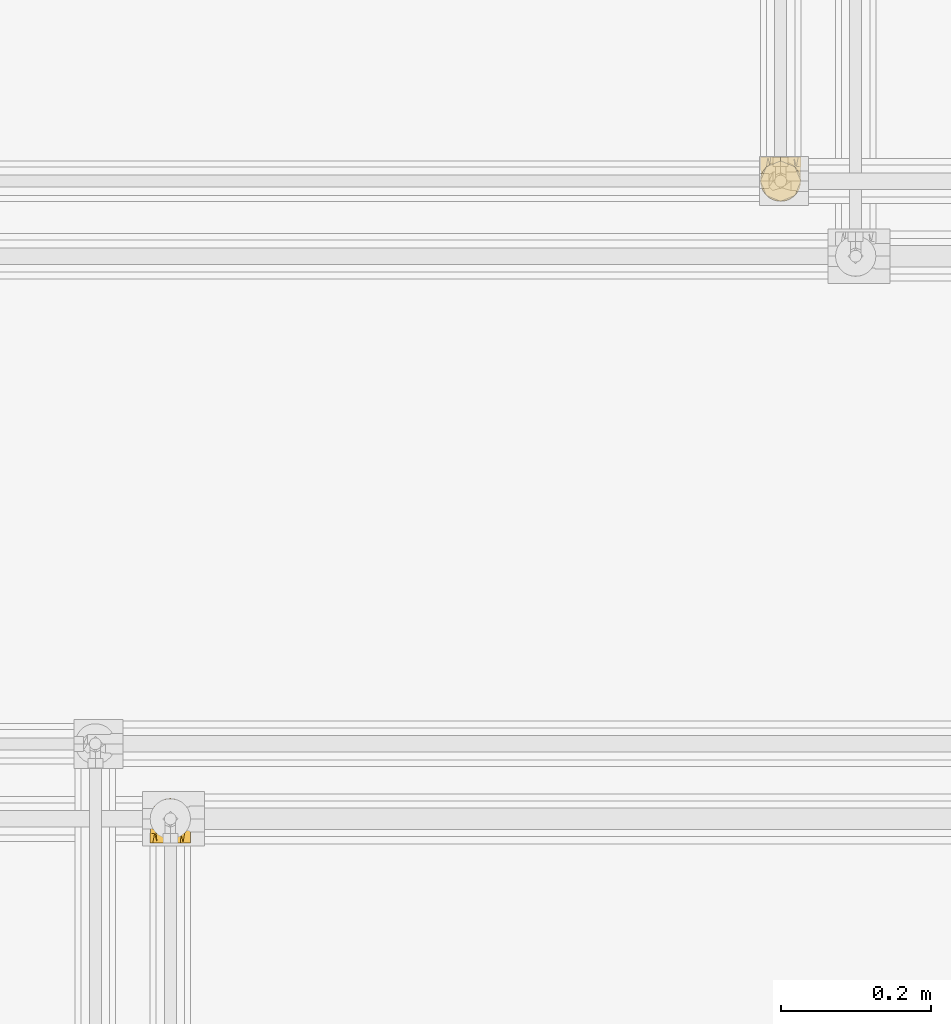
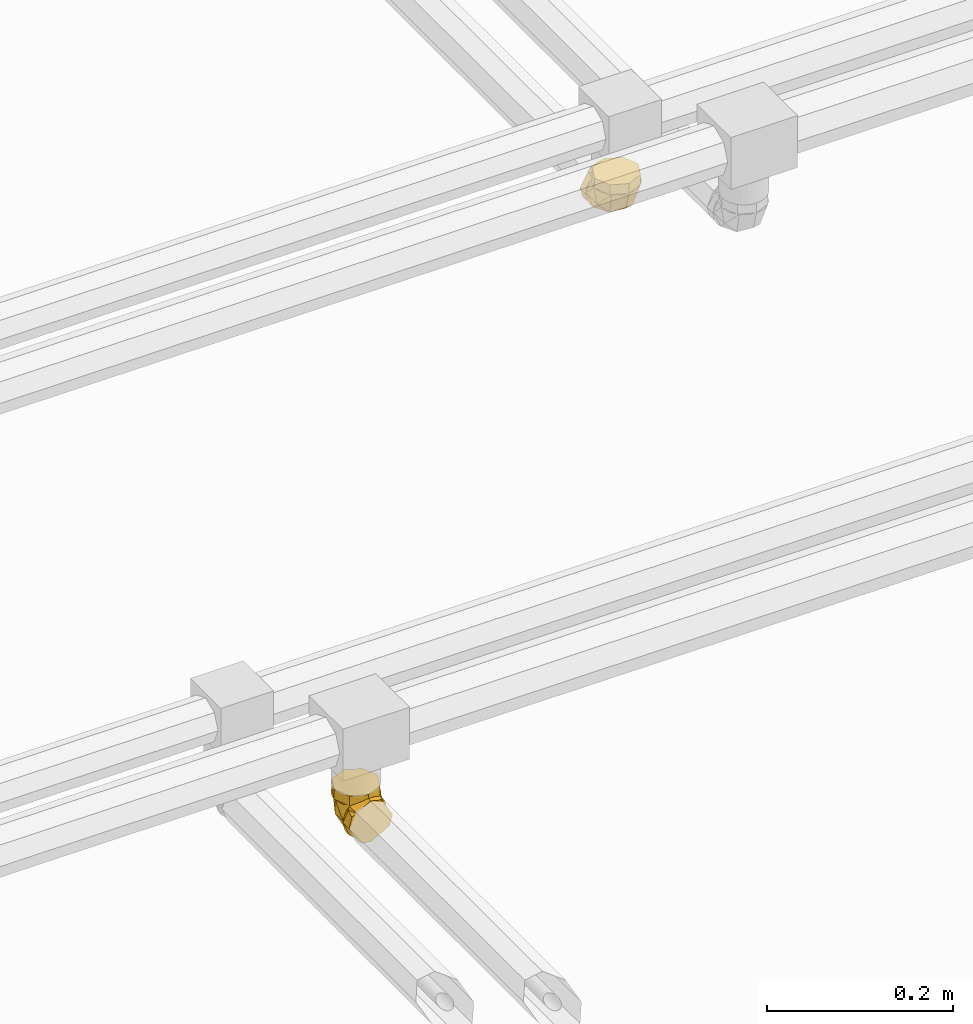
# One storey, part 302 of 652: 2 coverings.
"""IFC2X3 building model written with IfcOpenShell, lengths in millimetres."""

from ifc_helpers import new_model, entity, si_unit, converted_unit, direction, frame, origin, place, context, subcontext, project, spatial, face_set, surface_model, material, type_object, element, save


model = new_model("IFC2X3")

# Units and contexts
model_context = context("Model", 3, precision=0.01, world=frame((0.0, 0.0, 308426.39999999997)), true_north=direction((6.123233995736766e-17, 1.0)))
plan_context = context("Plan", 3, precision=0.01, world=frame((0.0, 0.0, 308426.39999999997)), true_north=direction((6.123233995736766e-17, 1.0)))
body_context = subcontext(model_context, "Body", "Model", "MODEL_VIEW")
ifc_project = project(units=[si_unit("LENGTHUNIT", "METRE", prefix="MILLI"), si_unit("AREAUNIT", "SQUARE_METRE"), si_unit("VOLUMEUNIT", "CUBIC_METRE"), converted_unit("PLANEANGLEUNIT", "DEGREE", entity("IfcPlaneAngleMeasure", 0.017453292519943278), si_unit("PLANEANGLEUNIT", "RADIAN"), dimensions=[0, 0, 0, 0, 0, 0, 0])], contexts=[model_context, plan_context])

# Site, building, storey
site_placement = place(None, origin())
site = spatial("IfcSite", under=ifc_project, at=site_placement, Name="Default", CompositionType="ELEMENT")
building_placement = place(site_placement, origin())
building = spatial("IfcBuilding", under=site, at=building_placement, CompositionType="ELEMENT")
storey_placement = place(building_placement, frame((0.0, 0.0, 1730.6999999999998)))
storey = spatial("IfcBuildingStorey", under=building, at=storey_placement, Name="EG_Produktion_FFB", CompositionType="ELEMENT", Elevation=1730.6999999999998)

# Coverings
ifc_material = material(Name="Dämmung - Armaflex-Schlauch")
covering_type = type_object("IfcCoveringType", Name="Rohrdämmung außen:Armaflex-Schlauch", PredefinedType="INSULATION")
covering_1_placement = place(storey_placement, frame((40971.46722776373, 41596.46567746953, 3731.983750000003)))
element("IfcCovering", 1, at=covering_1_placement, inside=storey, type_object=covering_type, material=ifc_material, Name="Rohrdämmung außen:Armaflex-Schlauch", ObjectType="Rohrdämmung außen:Armaflex-Schlauch", PredefinedType="INSULATION", context=body_context, shape_type="SurfaceModel", body=[
    surface_model("IfcFaceBasedSurfaceModel", [(9.65642195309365, 47.750272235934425, -12.766250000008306), (51.38658262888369, 42.79223424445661, -12.766250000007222), (54.0915642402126, 37.040242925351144, -12.766250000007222), (55.37345654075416, 30.81456370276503, -12.76625000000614), (55.16088498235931, 24.461836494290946, -12.766250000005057), (53.465685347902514, 18.3357751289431, -12.766250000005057), (50.38224474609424, 12.777472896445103, -12.766250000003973), (46.08224622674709, 8.096410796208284, -12.766250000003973), (40.8051096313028, 4.553225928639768, -12.766250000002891), (34.844660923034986, 2.345199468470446, -12.766250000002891), (28.532772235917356, 1.5952722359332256, -12.766250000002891), (22.220883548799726, 2.345199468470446, -12.766250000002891), (16.26043484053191, 4.553225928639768, -12.766250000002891), (10.983298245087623, 8.096410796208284, -12.766250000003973), (6.683299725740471, 12.777472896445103, -12.766250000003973), (3.599859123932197, 18.3357751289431, -12.766250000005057), (1.904659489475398, 24.461836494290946, -12.766250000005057), (1.6920879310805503, 30.81456370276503, -12.76625000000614), (2.973980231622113, 37.040242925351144, -12.766250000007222), (5.678961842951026, 42.79223424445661, -12.766250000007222), (47.409122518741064, 47.750272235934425, -12.766250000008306), (5.678961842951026, 47.750272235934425, -17.72428799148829), (2.973980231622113, 47.750272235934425, -23.47627931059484), (1.6920879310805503, 47.750272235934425, -29.701958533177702), (1.904659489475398, 47.750272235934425, -36.05468574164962), (3.599859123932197, 47.750272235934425, -42.18074710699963), (6.683299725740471, 47.750272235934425, -47.73904933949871), (10.983298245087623, 47.75027223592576, -52.420111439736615), (16.26043484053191, 47.75027223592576, -55.96329630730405), (22.220883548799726, 47.75027223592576, -58.17132276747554), (28.532772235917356, 47.75027223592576, -58.92125000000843), (34.844660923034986, 47.75027223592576, -58.17132276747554), (40.8051096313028, 47.75027223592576, -55.96329630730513), (46.08224622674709, 47.75027223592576, -52.420111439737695), (50.38224474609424, 47.750272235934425, -47.73904933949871), (53.465685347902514, 47.750272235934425, -42.18074710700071), (55.16088498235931, 47.750272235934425, -36.05468574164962), (55.37345654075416, 47.750272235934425, -29.701958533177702), (54.0915642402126, 47.750272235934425, -23.47627931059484), (51.38658262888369, 47.750272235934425, -17.724287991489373), (2.278292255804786, 39.0720056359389, -22.70882324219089), (28.532503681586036, 7.780892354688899, -35.843486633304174), (3.599141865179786, 26.9518152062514, -33.56571868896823), (6.338509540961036, 19.4545984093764, -12.766406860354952), (28.532503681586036, 29.48654421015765, -48.37644256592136), (14.286861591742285, 18.6732507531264, -43.18373626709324), (6.338509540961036, 47.7505456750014, -41.06119140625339), (42.778145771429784, 18.6732507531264, -43.18373626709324), (54.79136598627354, 39.0720056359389, -22.70882324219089), (53.46586549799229, 26.9518152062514, -33.56571868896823), (50.72649782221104, 47.7505456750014, -41.06119140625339), (50.72649782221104, 19.4545984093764, -12.766406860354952), (14.247005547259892, 7.512630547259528, 0.0), (19.008927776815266, 5.54017777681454, 0.0), (23.77085000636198, 3.567725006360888, 0.0), (28.532772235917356, 1.5952722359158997, 0.0), (33.29469446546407, 3.567725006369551, 0.0), (38.05661669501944, 5.54017777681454, 0.0), (42.81853892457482, 7.512630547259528, 0.0), (47.5804611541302, 9.485083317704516, 0.0), (49.552913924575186, 14.247005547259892, 0.0), (51.525366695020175, 19.008927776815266, 0.0), (53.49781946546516, 23.770850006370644, 0.0), (55.47027223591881, 28.532772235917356, 0.0), (53.497819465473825, 33.29469446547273, 0.0), (51.525366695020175, 38.05661669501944, 0.0), (49.552913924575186, 42.81853892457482, 0.0), (47.5804611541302, 47.5804611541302, 0.0), (42.81853892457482, 49.552913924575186, 0.0), (38.05661669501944, 51.525366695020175, 0.0), (33.29469446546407, 53.497819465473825, 0.0), (28.532772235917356, 55.47027223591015, 0.0), (23.770850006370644, 53.497819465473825, 0.0), (19.008927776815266, 51.525366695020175, 0.0), (14.247005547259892, 49.552913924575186, 0.0), (9.485083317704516, 47.5804611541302, 0.0), (7.512630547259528, 42.81853892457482, 0.0), (5.54017777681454, 38.05661669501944, 0.0), (3.567725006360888, 33.29469446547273, 0.0), (1.5952722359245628, 28.532772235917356, 0.0), (3.567725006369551, 23.770850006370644, 0.0), (5.54017777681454, 19.008927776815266, 0.0), (7.512630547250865, 14.247005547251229, 0.0), (9.485083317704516, 9.485083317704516, 0.0), (28.532772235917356, 1.5952722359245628, -12.766250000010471), (23.770850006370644, 3.567725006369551, -12.766250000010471), (19.008927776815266, 5.54017777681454, -12.766250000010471), (14.247005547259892, 7.512630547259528, -12.766250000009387), (9.485083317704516, 9.48508331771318, -12.766250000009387), (7.095738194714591, 15.253472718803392, -12.766250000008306), (4.706393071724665, 21.02186211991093, -12.766250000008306), (1.5952722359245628, 28.532772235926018, -12.76625000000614), (3.567725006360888, 33.29469446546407, -12.766250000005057), (5.54017777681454, 38.05661669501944, -12.766250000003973), (7.512630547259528, 42.81853892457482, -12.766250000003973), (9.485083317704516, 47.58046115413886, -12.766250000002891), (15.253472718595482, 49.96980627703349, -12.766250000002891), (21.021862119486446, 52.35915139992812, -12.766250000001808), (28.532772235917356, 55.47027223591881, -12.766250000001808), (33.29469446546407, 53.49781946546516, -12.766250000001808), (38.05661669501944, 51.525366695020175, -12.766250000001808), (42.81853892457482, 49.552913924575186, -12.766250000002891), (47.5804611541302, 47.58046115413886, -12.766250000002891), (49.96980627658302, 41.8120717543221, -12.766250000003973), (52.359151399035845, 36.043682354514, -12.766250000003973), (55.47027223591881, 28.532772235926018, -12.76625000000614), (53.49781946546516, 23.77085000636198, -12.766250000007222), (51.525366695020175, 19.008927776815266, -12.766250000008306), (49.552913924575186, 14.247005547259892, -12.766250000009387), (47.5804611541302, 9.48508331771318, -12.766250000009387), (41.81207177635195, 7.095738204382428, -12.766250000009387), (36.0436823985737, 4.706393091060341, -12.766250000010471), (28.532772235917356, 60.51652223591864, -58.92125000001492), (22.700632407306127, 60.516522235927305, -55.554062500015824), (16.868492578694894, 60.516522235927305, -52.18687500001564), (11.036352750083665, 60.51652223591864, -48.81968750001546), (5.204212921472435, 60.51652223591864, -45.45250000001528), (3.3997425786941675, 60.51652223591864, -38.718125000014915), (1.5952722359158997, 60.51652223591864, -31.98375000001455), (4.962459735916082, 60.516522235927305, -26.1516101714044), (8.329647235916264, 60.516522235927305, -20.31947034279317), (11.696834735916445, 60.51652223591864, -14.487330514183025), (15.064022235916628, 60.51652223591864, -8.655190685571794), (21.79839723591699, 60.51652223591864, -6.850720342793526), (28.532772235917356, 60.51652223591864, -5.046250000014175), (34.36491206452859, 60.516522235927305, -8.413437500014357), (40.197051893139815, 60.516522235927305, -11.78062500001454), (46.02919172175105, 60.51652223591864, -15.14781250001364), (51.86133155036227, 60.51652223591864, -18.515000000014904), (53.66580189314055, 60.51652223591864, -25.249375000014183), (55.47027223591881, 60.51652223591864, -31.98375000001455), (52.10308473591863, 60.516522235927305, -37.81588982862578), (48.73589723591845, 60.516522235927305, -43.648029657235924), (45.368709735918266, 60.51652223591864, -49.480169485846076), (42.00152223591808, 60.51652223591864, -55.3123093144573), (35.26714723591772, 60.51652223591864, -57.11677965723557), (28.532772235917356, 47.75027223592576, -58.92125000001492), (33.29469446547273, 47.75027223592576, -56.94879722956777), (38.05661669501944, 47.75027223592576, -54.9763444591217), (42.81853892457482, 47.75027223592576, -53.00389168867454), (47.5804611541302, 47.75027223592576, -51.03143891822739), (49.552913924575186, 47.75027223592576, -46.26951668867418), (51.525366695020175, 47.75027223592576, -41.507594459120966), (53.49781946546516, 47.75027223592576, -36.74567222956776), (55.47027223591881, 47.75027223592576, -31.98375000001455), (53.497819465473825, 47.75027223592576, -27.22182777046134), (51.525366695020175, 47.75027223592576, -22.459905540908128), (49.552913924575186, 47.75027223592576, -17.697983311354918), (47.5804611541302, 47.75027223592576, -12.936061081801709), (42.81853892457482, 47.75027223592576, -10.963608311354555), (38.05661669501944, 47.75027223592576, -8.991155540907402), (33.29469446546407, 47.75027223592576, -7.018702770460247), (28.532772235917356, 47.75027223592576, -5.046250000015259), (23.77085000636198, 47.75027223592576, -7.01870277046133), (19.008927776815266, 47.75027223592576, -8.991155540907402), (14.247005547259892, 47.75027223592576, -10.963608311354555), (9.485083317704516, 47.75027223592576, -12.936061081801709), (7.512630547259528, 47.75027223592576, -17.697983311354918), (5.54017777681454, 47.75027223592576, -22.459905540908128), (3.567725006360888, 47.75027223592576, -27.22182777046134), (1.5952722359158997, 47.75027223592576, -31.98375000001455), (3.567725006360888, 47.75027223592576, -36.74567222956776), (5.54017777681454, 47.75027223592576, -41.507594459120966), (7.512630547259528, 47.75027223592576, -46.26951668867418), (9.485083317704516, 47.75027223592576, -51.03143891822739), (14.247005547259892, 47.75027223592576, -53.00389168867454), (19.008927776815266, 47.75027223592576, -54.9763444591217), (23.77085000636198, 47.75027223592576, -56.948797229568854)], [face_set([[[0, 1, 2, 3, 4, 5, 6, 7, 8, 9, 10, 11, 12, 13, 14, 15, 16, 17, 18, 19]], [[20, 21, 22, 23, 24, 25, 26, 27, 28, 29, 30, 31, 32, 33, 34, 35, 36, 37, 38, 39]], [[0, 40, 17]], [[10, 13, 41]], [[23, 42, 40]], [[42, 13, 43]], [[23, 40, 0]], [[17, 40, 42]], [[44, 41, 45]], [[13, 45, 41]], [[27, 30, 44]], [[44, 45, 27]], [[42, 27, 45]], [[42, 23, 46, 27]], [[13, 42, 45]], [[43, 17, 42]], [[7, 10, 41]], [[33, 47, 44]], [[44, 30, 33]], [[48, 49, 37]], [[49, 33, 50, 37]], [[3, 49, 48]], [[44, 47, 41]], [[20, 48, 37]], [[47, 49, 7]], [[3, 48, 20]], [[41, 47, 7]], [[49, 3, 51]], [[33, 49, 47]], [[51, 7, 49]]]), face_set([[[52, 53, 54, 55, 56, 57, 58, 59, 60, 61, 62, 63, 64, 65, 66, 67, 68, 69, 70, 71, 72, 73, 74, 75, 76, 77, 78, 79, 80, 81, 82, 83]], [[84, 85, 86, 87, 88, 89, 90, 91, 92, 93, 94, 95, 96, 97, 98, 99, 100, 101, 102, 103, 104, 105, 106, 107, 108, 109, 110, 111]], [[111, 110, 109, 59, 58, 57, 56, 55, 84]], [[59, 109, 108, 107, 106, 105, 63, 62, 61, 60]], [[104, 103, 102, 67, 66, 65, 64, 63, 105]], [[67, 102, 101, 100, 99, 98, 71, 70, 69, 68]], [[97, 96, 95, 75, 74, 73, 72, 71, 98]], [[75, 95, 94, 93, 92, 91, 79, 78, 77, 76]], [[90, 89, 88, 83, 82, 81, 80, 79, 91]], [[83, 88, 87, 86, 85, 84, 55, 54, 53, 52]]]), face_set([[[112, 113, 114, 115, 116, 117, 118, 119, 120, 121, 122, 123, 124, 125, 126, 127, 128, 129, 130, 131, 132, 133, 134, 135]], [[136, 137, 138, 139, 140, 141, 142, 143, 144, 145, 146, 147, 148, 149, 150, 151, 152, 153, 154, 155, 156, 157, 158, 159, 160, 161, 162, 163, 164, 165, 166, 167]], [[155, 121, 156]], [[118, 159, 119]], [[159, 158, 119]], [[123, 154, 153]], [[153, 152, 124]], [[121, 155, 122]], [[120, 158, 157]], [[118, 160, 159]], [[158, 120, 119]], [[124, 123, 153]], [[157, 156, 121]], [[155, 154, 122]], [[123, 122, 154]], [[120, 157, 121]], [[163, 115, 164]], [[112, 167, 113]], [[167, 166, 113]], [[117, 162, 161]], [[161, 160, 118]], [[115, 163, 116]], [[114, 166, 165]], [[112, 136, 167]], [[166, 114, 113]], [[118, 117, 161]], [[165, 164, 115]], [[163, 162, 116]], [[117, 116, 162]], [[114, 165, 115]], [[139, 133, 140]], [[130, 143, 131]], [[143, 142, 131]], [[135, 138, 137]], [[137, 136, 112]], [[133, 139, 134]], [[132, 142, 141]], [[130, 144, 143]], [[142, 132, 131]], [[112, 135, 137]], [[141, 140, 133]], [[139, 138, 134]], [[135, 134, 138]], [[132, 141, 133]], [[147, 127, 148]], [[124, 151, 125]], [[151, 150, 125]], [[129, 146, 145]], [[145, 144, 130]], [[127, 147, 128]], [[126, 150, 149]], [[124, 152, 151]], [[150, 126, 125]], [[130, 129, 145]], [[149, 148, 127]], [[147, 146, 128]], [[129, 128, 146]], [[126, 149, 127]]])]),
])
covering_2_placement = place(storey_placement, frame((40158.027291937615, 40743.01624999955, 3671.467227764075)))
element("IfcCovering", 2, at=covering_2_placement, inside=storey, type_object=covering_type, material=ifc_material, Name="Rohrdämmung außen:Armaflex-Schlauch", ObjectType="Rohrdämmung außen:Armaflex-Schlauch", PredefinedType="INSULATION", context=body_context, shape_type="SurfaceModel", body=[
    surface_model("IfcFaceBasedSurfaceModel", [(47.409122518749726, 12.766249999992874, 47.750272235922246), (51.38658262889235, 17.724287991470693, 47.750272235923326), (54.09156424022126, 23.47627931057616, 47.750272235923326), (55.373456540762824, 29.70195853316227, 47.75027223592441), (55.160884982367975, 36.054685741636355, 47.75027223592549), (53.465685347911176, 42.1807471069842, 47.75027223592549), (50.382244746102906, 47.7390493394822, 47.75027223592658), (46.08224622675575, 52.420111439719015, 47.75027223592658), (40.80510963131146, 55.963296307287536, 47.75027223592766), (34.84466092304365, 58.17132276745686, 47.75027223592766), (28.532772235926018, 58.921249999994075, 47.75027223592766), (22.220883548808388, 58.17132276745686, 47.75027223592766), (16.260434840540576, 55.963296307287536, 47.75027223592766), (10.983298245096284, 52.420111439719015, 47.75027223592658), (6.6832997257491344, 47.7390493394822, 47.75027223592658), (3.5998591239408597, 42.1807471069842, 47.75027223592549), (1.904659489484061, 36.054685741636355, 47.75027223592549), (1.6920879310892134, 29.70195853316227, 47.75027223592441), (2.973980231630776, 23.47627931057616, 47.750272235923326), (5.678961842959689, 17.724287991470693, 47.750272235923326), (9.656421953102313, 12.766249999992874, 47.750272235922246), (5.678961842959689, 12.766249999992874, 42.79223424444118), (2.973980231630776, 12.766249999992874, 37.04024292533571), (1.6920879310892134, 12.766249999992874, 30.81456370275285), (1.904659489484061, 12.766249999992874, 24.46183649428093), (3.5998591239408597, 12.766249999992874, 18.335775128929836), (6.6832997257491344, 12.766249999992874, 12.777472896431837), (10.983298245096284, 12.766250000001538, 8.096410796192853), (16.260434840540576, 12.766250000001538, 4.5532259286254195), (22.220883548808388, 12.766250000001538, 2.3451994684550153), (28.532772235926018, 12.766250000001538, 1.5952722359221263), (34.84466092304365, 12.766250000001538, 2.3451994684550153), (40.80510963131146, 12.766250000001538, 4.553225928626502), (46.08224622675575, 12.766250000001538, 8.096410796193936), (50.382244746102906, 12.766249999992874, 12.777472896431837), (53.465685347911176, 12.766249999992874, 18.33577512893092), (55.160884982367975, 12.766249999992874, 24.46183649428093), (55.373456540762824, 12.766249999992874, 30.81456370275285), (54.09156424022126, 12.766249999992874, 37.04024292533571), (51.38658262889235, 12.766249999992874, 42.79223424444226), (54.78793023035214, 21.449020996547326, 37.807698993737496), (28.533718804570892, 52.73548339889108, 24.673035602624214), (53.46708062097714, 33.564560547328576, 26.950803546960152), (50.72771294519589, 41.06177734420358, 47.750115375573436), (28.533718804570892, 31.029831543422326, 12.140079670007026), (42.779360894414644, 41.843125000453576, 17.33278596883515), (50.72771294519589, 12.765830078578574, 19.455330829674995), (14.283425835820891, 41.843125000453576, 17.33278596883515), (2.27485649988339, 21.449020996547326, 37.807698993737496), (3.60035698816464, 33.564560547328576, 26.950803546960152), (6.33972466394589, 12.765830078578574, 19.455330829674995), (6.33972466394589, 41.06177734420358, 47.750115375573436), (42.818538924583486, 53.00389168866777, 60.51652223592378), (38.056616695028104, 54.97634445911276, 60.51652223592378), (33.29469446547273, 56.94879722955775, 60.5165222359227), (28.532772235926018, 58.921250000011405, 60.5165222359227), (23.770850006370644, 56.948797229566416, 60.51652223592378), (19.00892777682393, 54.97634445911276, 60.51652223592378), (14.247005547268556, 53.00389168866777, 60.51652223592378), (9.48508331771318, 51.03143891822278, 60.51652223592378), (7.512630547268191, 46.26951668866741, 60.51652223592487), (5.540177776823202, 41.507594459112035, 60.51652223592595), (3.567725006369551, 36.74567222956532, 60.51652223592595), (1.5952722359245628, 31.983750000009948, 60.516522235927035), (3.567725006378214, 27.221827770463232, 60.516522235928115), (5.540177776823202, 22.459905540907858, 60.516522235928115), (7.512630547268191, 17.697983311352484, 60.516522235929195), (9.48508331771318, 12.936061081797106, 60.51652223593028), (14.247005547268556, 10.963608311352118, 60.51652223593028), (19.00892777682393, 8.99115554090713, 60.51652223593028), (23.770850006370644, 7.018702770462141, 60.51652223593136), (28.532772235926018, 5.046250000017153, 60.51652223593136), (33.29469446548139, 7.018702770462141, 60.51652223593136), (38.056616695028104, 8.99115554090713, 60.51652223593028), (42.818538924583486, 10.963608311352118, 60.51652223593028), (47.58046115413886, 12.936061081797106, 60.51652223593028), (49.55291392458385, 17.697983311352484, 60.516522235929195), (51.525366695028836, 22.459905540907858, 60.516522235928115), (53.497819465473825, 27.221827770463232, 60.516522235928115), (55.47027223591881, 31.983750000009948, 60.516522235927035), (53.497819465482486, 36.74567222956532, 60.51652223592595), (51.525366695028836, 41.507594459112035, 60.51652223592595), (49.55291392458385, 46.26951668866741, 60.51652223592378), (47.58046115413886, 51.03143891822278, 60.51652223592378), (28.532772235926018, 58.92125000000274, 47.75027223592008), (33.29469446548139, 56.948797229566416, 47.75027223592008), (38.056616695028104, 54.97634445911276, 47.75027223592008), (42.818538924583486, 53.00389168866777, 47.750272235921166), (47.58046115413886, 51.03143891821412, 47.750272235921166), (49.96980627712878, 45.26304951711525, 47.750272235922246), (52.35915140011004, 39.49466011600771, 47.750272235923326), (55.47027223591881, 31.983750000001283, 47.75027223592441), (53.497819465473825, 27.22182777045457, 47.75027223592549), (51.525366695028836, 22.459905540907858, 47.75027223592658), (49.55291392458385, 17.697983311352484, 47.75027223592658), (47.58046115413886, 12.936061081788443, 47.75027223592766), (41.81207175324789, 10.546715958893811, 47.75027223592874), (36.04368235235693, 8.157370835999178, 47.75027223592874), (28.532772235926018, 5.046250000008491, 47.75027223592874), (23.770850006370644, 7.018702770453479, 47.75027223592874), (19.00892777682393, 8.99115554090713, 47.75027223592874), (14.247005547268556, 10.963608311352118, 47.75027223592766), (9.48508331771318, 12.936061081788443, 47.75027223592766), (7.095738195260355, 18.704450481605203, 47.75027223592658), (4.706393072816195, 24.472839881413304, 47.75027223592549), (1.5952722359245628, 31.983750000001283, 47.75027223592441), (3.567725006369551, 36.74567222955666, 47.750272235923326), (5.540177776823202, 41.507594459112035, 47.750272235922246), (7.512630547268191, 46.26951668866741, 47.750272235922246), (9.48508331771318, 51.03143891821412, 47.750272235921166), (15.253472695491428, 53.420784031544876, 47.750272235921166), (21.021862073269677, 55.81012914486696, 47.75027223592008), (28.532772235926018, 0.0, 1.595272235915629), (34.36491206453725, 0.0, 4.962459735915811), (40.197051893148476, 0.0, 8.32964723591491), (46.02919172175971, 0.0, 11.696834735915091), (51.86133155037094, 0.0, 15.064022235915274), (53.66580189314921, 0.0, 21.798397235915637), (55.470272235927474, 0.0, 28.532772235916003), (52.10308473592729, 0.0, 34.36491206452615), (48.73589723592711, 0.0, 40.19705189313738), (45.36870973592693, 0.0, 46.02919172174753), (42.00152223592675, 0.0, 51.861331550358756), (35.26714723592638, 0.0, 53.66580189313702), (28.532772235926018, 0.0, 55.470272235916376), (22.70063240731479, 0.0, 52.10308473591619), (16.86849257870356, 0.0, 48.73589723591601), (11.036352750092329, 0.0, 45.36870973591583), (5.204212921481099, 0.0, 42.00152223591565), (3.399742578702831, 0.0, 35.26714723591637), (1.5952722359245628, 0.0, 28.532772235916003), (4.962459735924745, 0.0, 22.700632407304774), (8.329647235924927, 0.0, 16.868492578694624), (11.696834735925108, 0.0, 11.036352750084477), (15.064022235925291, 0.0, 5.204212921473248), (21.798397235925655, 0.0, 3.3997425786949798), (28.532772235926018, 12.766250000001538, 1.595272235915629), (23.770850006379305, 12.766250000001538, 3.567725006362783), (19.00892777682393, 12.766250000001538, 5.5401777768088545), (14.247005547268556, 12.766250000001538, 7.512630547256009), (9.48508331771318, 12.766250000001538, 9.485083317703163), (7.512630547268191, 12.766250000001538, 14.247005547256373), (5.540177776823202, 12.766250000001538, 19.008927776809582), (3.567725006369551, 12.766250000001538, 23.770850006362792), (1.5952722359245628, 12.766250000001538, 28.532772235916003), (3.567725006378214, 12.766250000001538, 33.29469446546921), (5.540177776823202, 12.766250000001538, 38.05661669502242), (7.512630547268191, 12.766250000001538, 42.818538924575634), (9.48508331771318, 12.766250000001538, 47.58046115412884), (14.247005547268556, 12.766250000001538, 49.552913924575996), (19.00892777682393, 12.766250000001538, 51.52536669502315), (23.770850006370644, 12.766250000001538, 53.49781946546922), (28.532772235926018, 12.766250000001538, 55.470272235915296), (33.29469446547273, 12.766250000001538, 53.49781946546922), (38.056616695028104, 12.766250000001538, 51.52536669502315), (42.818538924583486, 12.766250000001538, 49.552913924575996), (47.58046115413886, 12.766250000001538, 47.58046115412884), (49.55291392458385, 12.766250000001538, 42.818538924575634), (51.525366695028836, 12.766250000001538, 38.05661669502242), (53.497819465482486, 12.766250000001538, 33.29469446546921), (55.470272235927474, 12.766250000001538, 28.532772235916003), (53.497819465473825, 12.766250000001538, 23.770850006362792), (51.525366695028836, 12.766250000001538, 19.008927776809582), (49.55291392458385, 12.766250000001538, 14.247005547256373), (47.58046115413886, 12.766250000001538, 9.485083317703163), (42.818538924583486, 12.766250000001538, 7.512630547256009), (38.056616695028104, 12.766250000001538, 5.5401777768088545), (33.29469446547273, 12.766250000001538, 3.5677250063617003)], [face_set([[[0, 1, 2, 3, 4, 5, 6, 7, 8, 9, 10, 11, 12, 13, 14, 15, 16, 17, 18, 19]], [[20, 21, 22, 23, 24, 25, 26, 27, 28, 29, 30, 31, 32, 33, 34, 35, 36, 37, 38, 39]], [[0, 40, 3]], [[10, 7, 41]], [[37, 42, 40]], [[42, 7, 43]], [[37, 40, 0]], [[3, 40, 42]], [[44, 41, 45]], [[7, 45, 41]], [[33, 30, 44]], [[44, 45, 33]], [[42, 33, 45]], [[42, 37, 46, 33]], [[7, 42, 45]], [[43, 3, 42]], [[13, 10, 41]], [[27, 47, 44]], [[44, 30, 27]], [[48, 49, 23]], [[49, 27, 50]], [[17, 49, 48]], [[44, 47, 41]], [[20, 48, 23]], [[47, 49, 13]], [[17, 48, 20]], [[41, 47, 13]], [[49, 17, 51]], [[27, 49, 47]], [[50, 23, 49]], [[51, 13, 49]]]), face_set([[[52, 53, 54, 55, 56, 57, 58, 59, 60, 61, 62, 63, 64, 65, 66, 67, 68, 69, 70, 71, 72, 73, 74, 75, 76, 77, 78, 79, 80, 81, 82, 83]], [[84, 85, 86, 87, 88, 89, 90, 91, 92, 93, 94, 95, 96, 97, 98, 99, 100, 101, 102, 103, 104, 105, 106, 107, 108, 109, 110, 111]], [[111, 110, 109, 59, 58, 57, 56, 55, 84]], [[59, 109, 108, 107, 106, 105, 63, 62, 61, 60]], [[104, 103, 102, 67, 66, 65, 64, 63, 105]], [[67, 102, 101, 100, 99, 98, 71, 70, 69, 68]], [[97, 96, 95, 75, 74, 73, 72, 71, 98]], [[75, 95, 94, 93, 92, 91, 79, 78, 77, 76]], [[90, 89, 88, 83, 82, 81, 80, 79, 91]], [[83, 88, 87, 86, 85, 84, 55, 54, 53, 52]]]), face_set([[[112, 113, 114, 115, 116, 117, 118, 119, 120, 121, 122, 123, 124, 125, 126, 127, 128, 129, 130, 131, 132, 133, 134, 135]], [[136, 137, 138, 139, 140, 141, 142, 143, 144, 145, 146, 147, 148, 149, 150, 151, 152, 153, 154, 155, 156, 157, 158, 159, 160, 161, 162, 163, 164, 165, 166, 167]], [[155, 121, 156]], [[118, 159, 119]], [[159, 158, 119]], [[123, 154, 153]], [[153, 152, 124]], [[121, 155, 122]], [[120, 158, 157]], [[118, 160, 159]], [[158, 120, 119]], [[124, 123, 153]], [[157, 156, 121]], [[155, 154, 122]], [[123, 122, 154]], [[120, 157, 121]], [[163, 115, 164]], [[112, 167, 113]], [[167, 166, 113]], [[117, 162, 161]], [[161, 160, 118]], [[115, 163, 116]], [[114, 166, 165]], [[112, 136, 167]], [[166, 114, 113]], [[118, 117, 161]], [[165, 164, 115]], [[163, 162, 116]], [[117, 116, 162]], [[114, 165, 115]], [[139, 133, 140]], [[130, 143, 131]], [[143, 142, 131]], [[135, 138, 137]], [[137, 136, 112]], [[133, 139, 134]], [[132, 142, 141]], [[130, 144, 143]], [[142, 132, 131]], [[112, 135, 137]], [[141, 140, 133]], [[139, 138, 134]], [[135, 134, 138]], [[132, 141, 133]], [[147, 127, 148]], [[124, 151, 125]], [[151, 150, 125]], [[129, 146, 145]], [[145, 144, 130]], [[127, 147, 128]], [[126, 150, 149]], [[124, 152, 151]], [[150, 126, 125]], [[130, 129, 145]], [[149, 148, 127]], [[147, 146, 128]], [[129, 128, 146]], [[126, 149, 127]]])]),
])

save(model, "model.ifc")
